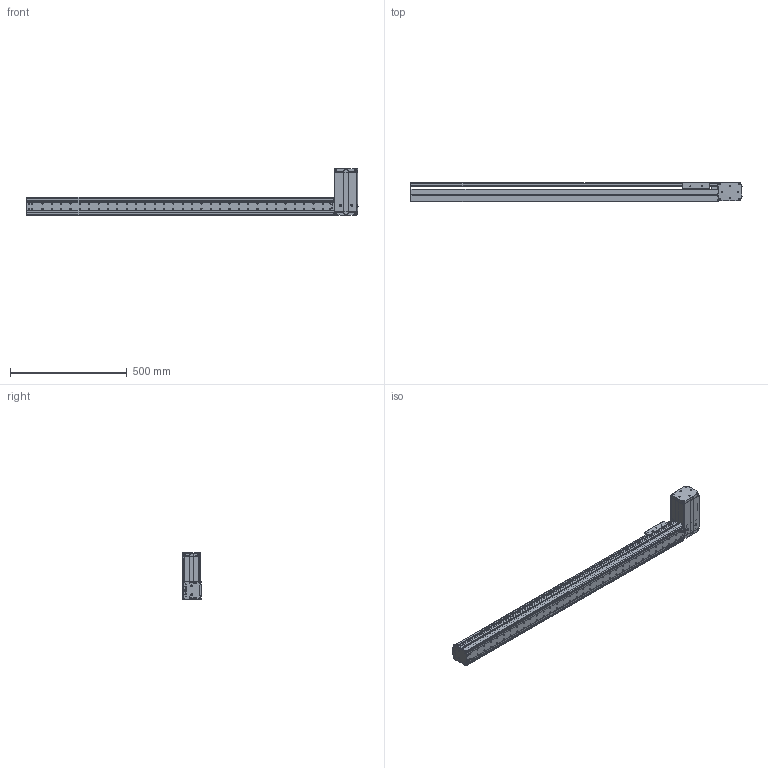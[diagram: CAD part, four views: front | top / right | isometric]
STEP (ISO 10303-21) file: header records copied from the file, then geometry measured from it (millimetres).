
FILE_DESCRIPTION((''),'2;1');
FILE_NAME('BE10_-BR-M_N-B0_IGS_PRT','2017-06-18T',(' '),(''),'PRO/ENGINEER BY PARAMETRIC TECHNOLOGY CORPORATION, 2015030','PRO/ENGINEER BY PARAMETRIC TECHNOLOGY CORPORATION, 2015030','');
FILE_SCHEMA(('CONFIG_CONTROL_DESIGN'));
Products named in the file (1): BE10_-BR-M_N-B0_IGS_PRT
Bounding box: 1420.8 x 85 x 200.22 mm (x, y, z)
Volume: 2042527 mm3; surface area: 1379067 mm2
Topology: 2 solids, 155 shells, 2223 faces, 6065 edges, 4007 vertices
Faces by surface type: plane 1057, cylinder 999, cone 111, sphere 28, torus 25, bspline 3
Entity records: 72305 total; most frequent: CARTESIAN_POINT 14762, DIRECTION 12223, ORIENTED_EDGE 11474, EDGE_CURVE 6003, AXIS2_PLACEMENT_3D 4413, VERTEX_POINT 4007, VECTOR 3397, LINE 3397
